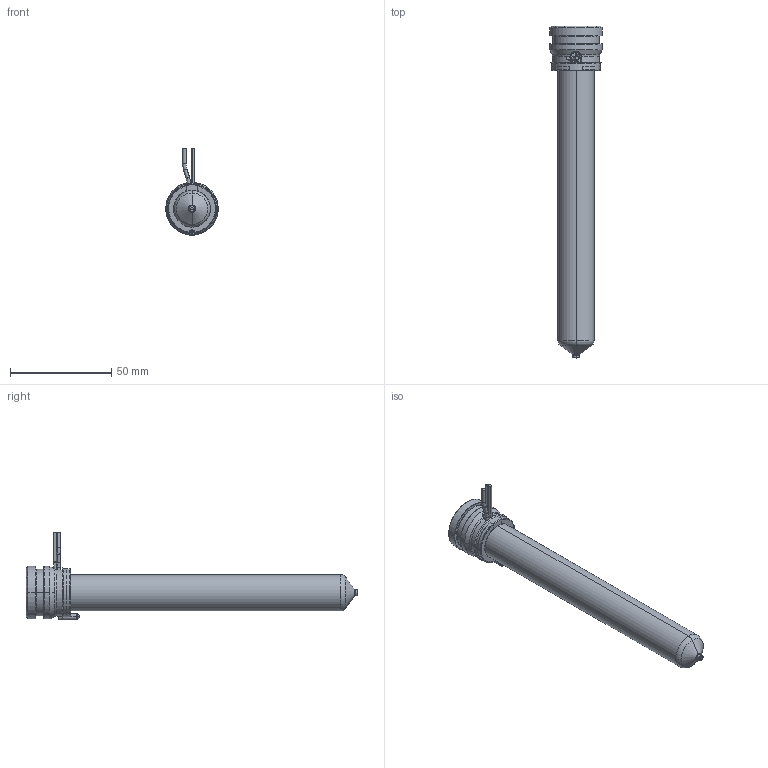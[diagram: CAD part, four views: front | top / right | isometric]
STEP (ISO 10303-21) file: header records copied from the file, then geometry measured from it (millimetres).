
FILE_DESCRIPTION((''),'2;1');
FILE_NAME('MPN-08-24-VP3-146-A','2026-02-05T12:02:08',('UPTIO'),('Thermoplay S.p.A.'),'CREO PARAMETRIC BY PTC INC, 2023494','CREO PARAMETRIC BY PTC INC, 2023494','');
FILE_SCHEMA(('CONFIG_CONTROL_DESIGN','SHAPE_APPEARANCE_LAYERS_GROUPS'));
Length unit declared in the file: millimetre
Products named in the file (1): MPN-08-24-VP3-146-A
Bounding box: 26 x 164.1 x 43.5 mm (x, y, z)
Volume: 31198.6 mm3; surface area: 40525.8 mm2
Topology: 2 solids, 3 shells, 587 faces, 1560 edges, 971 vertices
Faces by surface type: cylinder 184, plane 143, bspline 108, torus 70, cone 68, sphere 8, extrusion 6
Entity records: 31960 total; most frequent: CARTESIAN_POINT 14726, ORIENTED_EDGE 3104, DIRECTION 2714, EDGE_CURVE 1552, AXIS2_PLACEMENT_3D 1061, VERTEX_POINT 971, EDGE_LOOP 615, VECTOR 592
